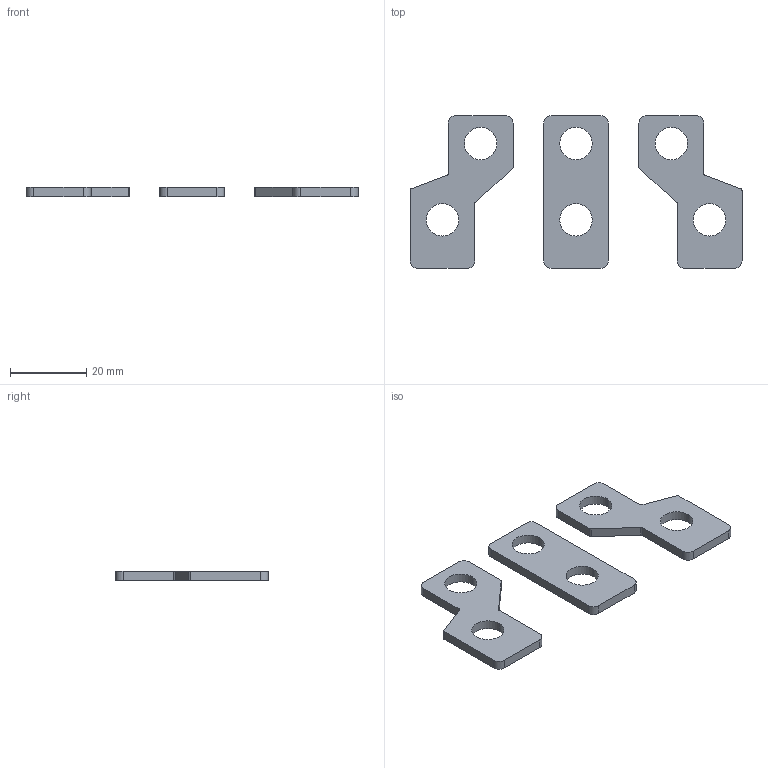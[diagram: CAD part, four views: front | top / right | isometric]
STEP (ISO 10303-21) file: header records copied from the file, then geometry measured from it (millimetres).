
FILE_DESCRIPTION (( 'STEP AP214' ), '1' );
FILE_NAME ('OptiMat E100 ðàñøèðèòåëè ïîëþñîâ 63...100 íèæíèå.STEP', '2023-11-09T12:21:09', ( '' ), ( '' ), 'SwSTEP 2.0', 'SolidWorks 2018', '' );
FILE_SCHEMA (( 'AUTOMOTIVE_DESIGN' ));
Length unit declared in the file: millimetre
Products named in the file (3): OptiMat E100 ðàñøèðèòåëè ïîëþñîâ 63...100 íèæíèå; Ðàñøèðèòåëè ïîëþñîâ OptiMat E100-63...100-ÓÕË3-3øò. Âûâîä ñðåäíèé; Ðàñøèðèòåëè ïîëþñîâ OptiMat E100-63...100-ÓÕË3-3øò. Âûâîä êðàéíèé
Assembly tree (3 placements, depth 2):
  OptiMat E100 ðàñøèðèòåëè ïîëþñîâ 63...100 íèæíèå
    Ðàñøèðèòåëè ïîëþñîâ OptiMat E100-63...100-ÓÕË3-3øò. Âûâîä êðàéíèé  x2
    Ðàñøèðèòåëè ïîëþñîâ OptiMat E100-63...100-ÓÕË3-3øò. Âûâîä ñðåäíèé
Bounding box: 87 x 40 x 2.5 mm (x, y, z)
Volume: 4268.1 mm3; surface area: 4699.9 mm2
Topology: 3 solids, 3 shells, 58 faces, 156 edges, 104 vertices
Faces by surface type: cylinder 32, plane 26
Entity records: 1274 total; most frequent: DIRECTION 220, CARTESIAN_POINT 202, ORIENTED_EDGE 192, EDGE_CURVE 96, AXIS2_PLACEMENT_3D 82, VERTEX_POINT 64, VECTOR 56, LINE 56
